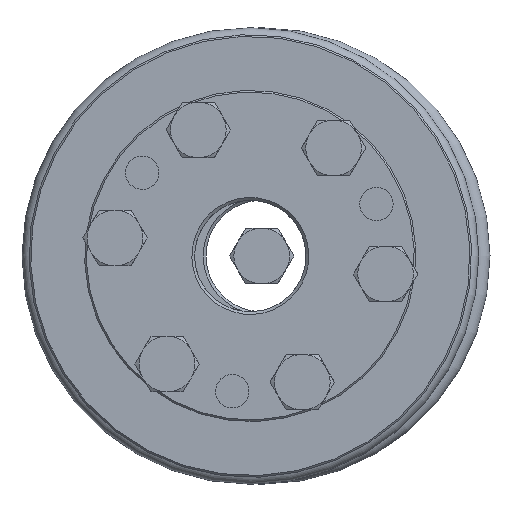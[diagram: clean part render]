
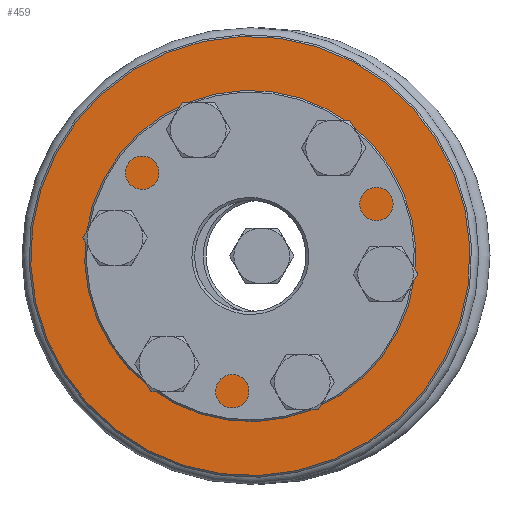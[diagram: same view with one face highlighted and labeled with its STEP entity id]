
A CAD part, left-side view. The second image highlights one B-rep face of the part: STEP entity #459.
In plain terms, the highlighted planar face has unit normal (-1, 0, 0) as drawn and (1, 0, 0) by its records, which use the part's own axes.
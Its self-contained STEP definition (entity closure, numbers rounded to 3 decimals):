
#459 = ADVANCED_FACE( 'NONE', ( #803, #804, #805, #806, #807, #808, #809, #810 ), #811, .F. );
#803 = FACE_OUTER_BOUND( '', #1128, .T. );
#804 = FACE_BOUND( '', #1129, .T. );
#805 = FACE_BOUND( '', #1130, .T. );
#806 = FACE_BOUND( '', #1131, .T. );
#807 = FACE_BOUND( '', #1132, .T. );
#808 = FACE_BOUND( '', #1133, .T. );
#809 = FACE_BOUND( '', #1134, .T. );
#810 = FACE_BOUND( '', #1135, .T. );
#811 = PLANE( '', #1136 );
#1128 = EDGE_LOOP( '', ( #1537 ) );
#1129 = EDGE_LOOP( '', ( #1538 ) );
#1130 = EDGE_LOOP( '', ( #1539 ) );
#1131 = EDGE_LOOP( '', ( #1540 ) );
#1132 = EDGE_LOOP( '', ( #1541 ) );
#1133 = EDGE_LOOP( '', ( #1542 ) );
#1134 = EDGE_LOOP( '', ( #1543 ) );
#1135 = EDGE_LOOP( '', ( #1544 ) );
#1136 = AXIS2_PLACEMENT_3D( '', #1545, #1546, #1547 );
#1537 = ORIENTED_EDGE( '', *, *, #1975, .T. );
#1538 = ORIENTED_EDGE( '', *, *, #1976, .T. );
#1539 = ORIENTED_EDGE( '', *, *, #1977, .F. );
#1540 = ORIENTED_EDGE( '', *, *, #1960, .F. );
#1541 = ORIENTED_EDGE( '', *, *, #1978, .F. );
#1542 = ORIENTED_EDGE( '', *, *, #1962, .F. );
#1543 = ORIENTED_EDGE( '', *, *, #1979, .F. );
#1544 = ORIENTED_EDGE( '', *, *, #1980, .F. );
#1545 = CARTESIAN_POINT( '', ( 20., 39.75, 0. ) );
#1546 = DIRECTION( '', ( -1., 0., 0. ) );
#1547 = DIRECTION( '', ( 0., 0., 1. ) );
#1960 = EDGE_CURVE( 'NONE', #2146, #2146, #2147, .T. );
#1962 = EDGE_CURVE( 'NONE', #2150, #2150, #2151, .T. );
#1975 = EDGE_CURVE( 'NONE', #2176, #2176, #2177, .T. );
#1976 = EDGE_CURVE( 'NONE', #2178, #2178, #2179, .T. );
#1977 = EDGE_CURVE( 'NONE', #2180, #2180, #2181, .T. );
#1978 = EDGE_CURVE( 'NONE', #2182, #2182, #2183, .T. );
#1979 = EDGE_CURVE( 'NONE', #2184, #2184, #2185, .T. );
#1980 = EDGE_CURVE( 'NONE', #2186, #2186, #2187, .T. );
#2146 = VERTEX_POINT( '', #2326 );
#2147 = CIRCLE( '', #2327, 3. );
#2150 = VERTEX_POINT( '', #2330 );
#2151 = CIRCLE( '', #2331, 3. );
#2176 = VERTEX_POINT( '', #2356 );
#2177 = CIRCLE( '', #2357, 39.45 );
#2178 = VERTEX_POINT( '', #2358 );
#2179 = CIRCLE( '', #2359, 20.835 );
#2180 = VERTEX_POINT( '', #2360 );
#2181 = CIRCLE( '', #2361, 3. );
#2182 = VERTEX_POINT( '', #2362 );
#2183 = CIRCLE( '', #2363, 3. );
#2184 = VERTEX_POINT( '', #2364 );
#2185 = CIRCLE( '', #2365, 3. );
#2186 = VERTEX_POINT( '', #2366 );
#2187 = CIRCLE( '', #2367, 3. );
#2326 = CARTESIAN_POINT( '', ( 20., 24.5, -3. ) );
#2327 = AXIS2_PLACEMENT_3D( '', #2536, #2537, #2538 );
#2330 = CARTESIAN_POINT( '', ( 20., -12.25, -24.218 ) );
#2331 = AXIS2_PLACEMENT_3D( '', #2542, #2543, #2544 );
#2356 = CARTESIAN_POINT( '', ( 20., 0., 39.45 ) );
#2357 = AXIS2_PLACEMENT_3D( '', #2581, #2582, #2583 );
#2358 = CARTESIAN_POINT( '', ( 20., 0., 20.835 ) );
#2359 = AXIS2_PLACEMENT_3D( '', #2584, #2585, #2586 );
#2360 = CARTESIAN_POINT( '', ( 20., -12.25, 18.218 ) );
#2361 = AXIS2_PLACEMENT_3D( '', #2587, #2588, #2589 );
#2362 = CARTESIAN_POINT( '', ( 20., 12.25, -24.218 ) );
#2363 = AXIS2_PLACEMENT_3D( '', #2590, #2591, #2592 );
#2364 = CARTESIAN_POINT( '', ( 20., -24.5, -3. ) );
#2365 = AXIS2_PLACEMENT_3D( '', #2593, #2594, #2595 );
#2366 = CARTESIAN_POINT( '', ( 20., 12.25, 18.218 ) );
#2367 = AXIS2_PLACEMENT_3D( '', #2596, #2597, #2598 );
#2536 = CARTESIAN_POINT( '', ( 20., 24.5, 0. ) );
#2537 = DIRECTION( '', ( 1., 0., 0. ) );
#2538 = DIRECTION( '', ( 0., 0., -1. ) );
#2542 = CARTESIAN_POINT( '', ( 20., -12.25, -21.218 ) );
#2543 = DIRECTION( '', ( 1., 0., 0. ) );
#2544 = DIRECTION( '', ( 0., 0., -1. ) );
#2581 = CARTESIAN_POINT( '', ( 20., 0., 0. ) );
#2582 = DIRECTION( '', ( 1., 0., 0. ) );
#2583 = DIRECTION( '', ( 0., 0., 1. ) );
#2584 = CARTESIAN_POINT( '', ( 20., 0., 0. ) );
#2585 = DIRECTION( '', ( -1., 0., 0. ) );
#2586 = DIRECTION( '', ( 0., 0., 1. ) );
#2587 = CARTESIAN_POINT( '', ( 20., -12.25, 21.218 ) );
#2588 = DIRECTION( '', ( 1., 0., 0. ) );
#2589 = DIRECTION( '', ( 0., 0., -1. ) );
#2590 = CARTESIAN_POINT( '', ( 20., 12.25, -21.218 ) );
#2591 = DIRECTION( '', ( 1., 0., 0. ) );
#2592 = DIRECTION( '', ( 0., 0., -1. ) );
#2593 = CARTESIAN_POINT( '', ( 20., -24.5, 0. ) );
#2594 = DIRECTION( '', ( 1., 0., 0. ) );
#2595 = DIRECTION( '', ( 0., 0., -1. ) );
#2596 = CARTESIAN_POINT( '', ( 20., 12.25, 21.218 ) );
#2597 = DIRECTION( '', ( 1., 0., 0. ) );
#2598 = DIRECTION( '', ( 0., 0., -1. ) );
